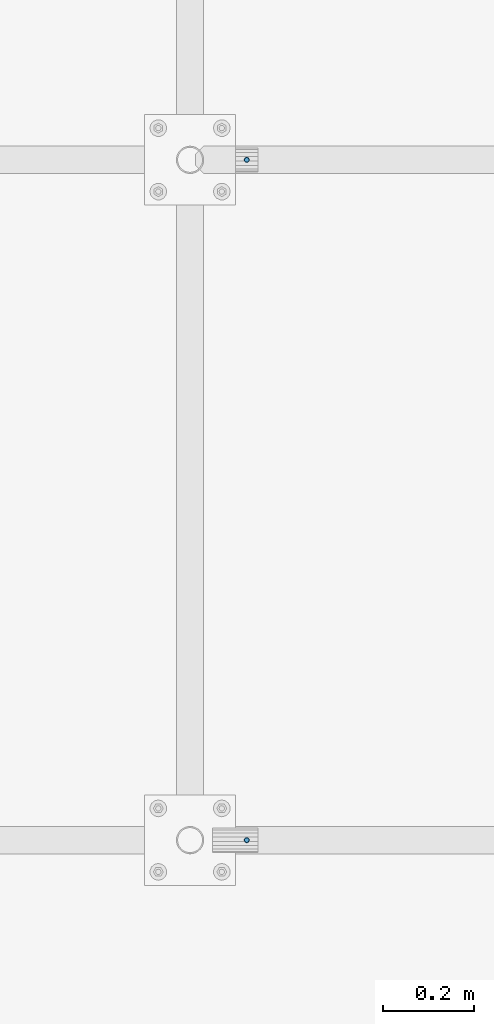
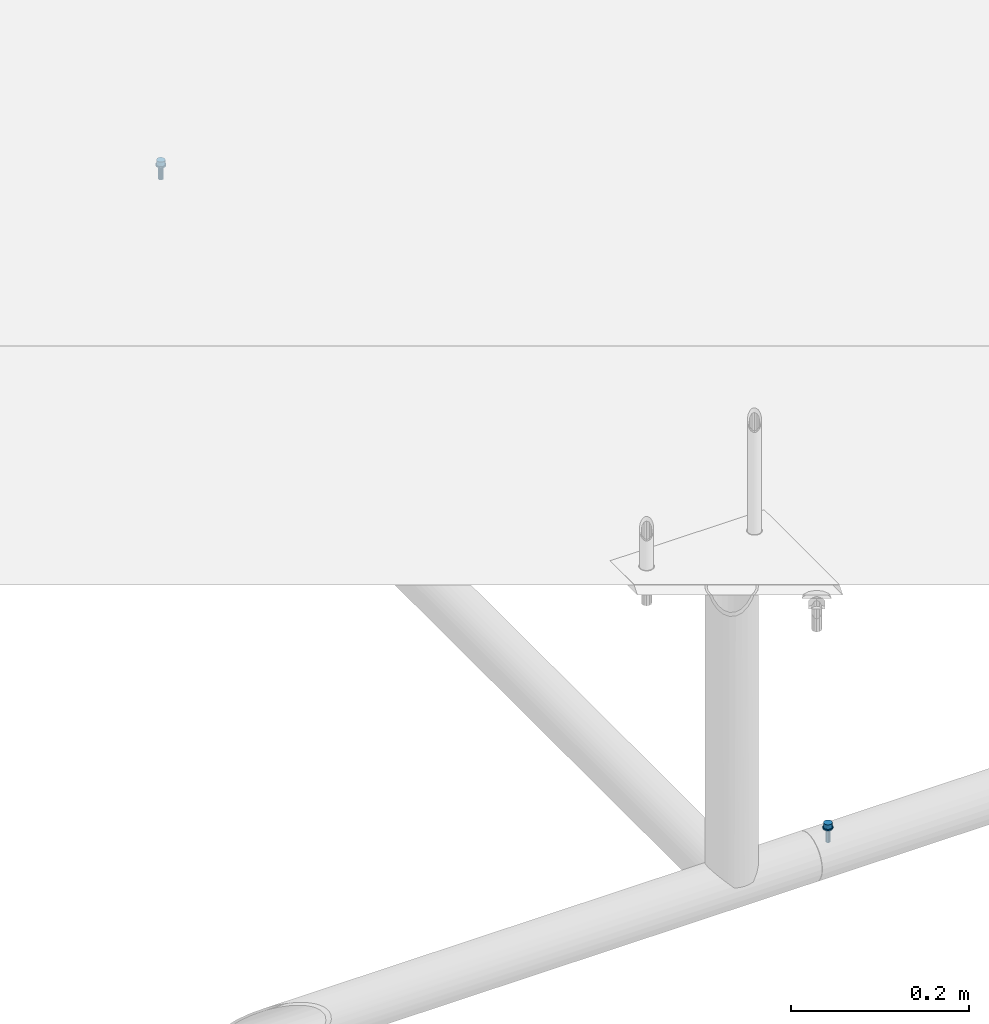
# One storey, part 7 of 30: 2 mechanical fasteners.
"""IFC2X3 building model written with IfcOpenShell, lengths in millimetres."""

from ifc_helpers import new_model, entity, si_unit, converted_unit, origin_with_axes, place, context, project, spatial, faceted_brep, element, save


model = new_model("IFC2X3")

# Units and contexts
model_context = context("Model", 3, precision=1e-09, world=origin_with_axes())
ifc_project = project(units=[si_unit("LENGTHUNIT", "METRE", prefix="MILLI"), si_unit("AREAUNIT", "SQUARE_METRE"), si_unit("VOLUMEUNIT", "CUBIC_METRE"), converted_unit("PLANEANGLEUNIT", "DEGREE", entity("IfcPlaneAngleMeasure", 0.01745329), si_unit("PLANEANGLEUNIT", "RADIAN"), dimensions=[0, 0, 0, 0, 0, 0, 0])], contexts=[model_context])

# Site, building, storey
site_placement = place(None, origin_with_axes())
site = spatial("IfcSite", under=ifc_project, at=site_placement, Name="M?nsinger Stra?e, 81477 M?nchen", CompositionType="ELEMENT")
building_placement = place(site_placement, origin_with_axes())
building = spatial("IfcBuilding", under=site, at=building_placement, Name="Struktur 1", CompositionType="ELEMENT")
storey_placement = place(building_placement, origin_with_axes())
storey = spatial("IfcBuildingStorey", under=building, at=storey_placement, Name="Default Storey", CompositionType="ELEMENT", Elevation=0.0)

# Mechanical fasteners
mechanical_fastener_1_placement = place(None, origin_with_axes())
element("IfcMechanicalFastener", 1, at=mechanical_fastener_1_placement, inside=storey, ObjectType="-", NominalDiameter=6.0, NominalLength=20.0, context=model_context, shape_type="Brep", body=[
    faceted_brep([(3025.315117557, 1491.2632594, 6141.75), (3025.315117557, 1491.2632594, 6140.15), (3025.430405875, 1490.092717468, 6140.15), (3025.430405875, 1490.092717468, 6141.75), (3025.771840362, 1488.967158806, 6140.15), (3025.771840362, 1488.967158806, 6141.75), (3026.326299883, 1487.929838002, 6140.15), (3026.326299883, 1487.929838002, 6141.75), (3027.07247687, 1487.020618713, 6140.15), (3027.07247687, 1487.020618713, 6141.75), (3027.981696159, 1486.274441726, 6140.15), (3027.981696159, 1486.274441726, 6141.75), (3029.019016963, 1485.719982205, 6140.15), (3029.019016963, 1485.719982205, 6141.75), (3030.144575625, 1485.378547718, 6140.15), (3030.144575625, 1485.378547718, 6141.75), (3031.315117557, 1485.2632594, 6140.15), (3031.315117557, 1485.2632594, 6141.75), (3032.485659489, 1485.378547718, 6140.15), (3032.485659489, 1485.378547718, 6141.75), (3033.611218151, 1485.719982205, 6140.15), (3033.611218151, 1485.719982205, 6141.75), (3034.648538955, 1486.274441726, 6140.15), (3034.648538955, 1486.274441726, 6141.75), (3035.557758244, 1487.020618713, 6140.15), (3035.557758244, 1487.020618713, 6141.75), (3036.303935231, 1487.929838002, 6140.15), (3036.303935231, 1487.929838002, 6141.75), (3036.858394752, 1488.967158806, 6140.15), (3036.858394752, 1488.967158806, 6141.75), (3037.199829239, 1490.092717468, 6140.15), (3037.199829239, 1490.092717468, 6141.75), (3037.315117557, 1491.2632594, 6140.15), (3037.315117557, 1491.2632594, 6141.75), (3037.199829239, 1492.433801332, 6140.15), (3037.199829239, 1492.433801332, 6141.75), (3036.858394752, 1493.559359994, 6140.15), (3036.858394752, 1493.559359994, 6141.75), (3036.303935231, 1494.596680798, 6140.15), (3036.303935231, 1494.596680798, 6141.75), (3035.557758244, 1495.505900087, 6140.15), (3035.557758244, 1495.505900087, 6141.75), (3034.648538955, 1496.252077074, 6140.15), (3034.648538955, 1496.252077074, 6141.75), (3033.611218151, 1496.806536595, 6140.15), (3033.611218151, 1496.806536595, 6141.75), (3032.485659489, 1497.147971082, 6140.15), (3032.485659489, 1497.147971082, 6141.75), (3031.315117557, 1497.2632594, 6140.15), (3031.315117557, 1497.2632594, 6141.75), (3030.144575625, 1497.147971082, 6140.15), (3030.144575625, 1497.147971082, 6141.75), (3029.019016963, 1496.806536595, 6140.15), (3029.019016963, 1496.806536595, 6141.75), (3027.981696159, 1496.252077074, 6140.15), (3027.981696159, 1496.252077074, 6141.75), (3027.07247687, 1495.505900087, 6140.15), (3027.07247687, 1495.505900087, 6141.75), (3026.326299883, 1494.596680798, 6140.15), (3026.326299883, 1494.596680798, 6141.75), (3025.771840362, 1493.559359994, 6140.15), (3025.771840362, 1493.559359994, 6141.75), (3025.430405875, 1492.433801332, 6140.15), (3025.430405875, 1492.433801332, 6141.75)], [[[0, 1, 2, 3]], [[3, 2, 4, 5]], [[5, 4, 6, 7]], [[7, 6, 8, 9]], [[9, 8, 10, 11]], [[11, 10, 12, 13]], [[13, 12, 14, 15]], [[15, 14, 16, 17]], [[17, 16, 18, 19]], [[19, 18, 20, 21]], [[21, 20, 22, 23]], [[23, 22, 24, 25]], [[25, 24, 26, 27]], [[27, 26, 28, 29]], [[29, 28, 30, 31]], [[31, 30, 32, 33]], [[33, 32, 34, 35]], [[35, 34, 36, 37]], [[37, 36, 38, 39]], [[39, 38, 40, 41]], [[41, 40, 42, 43]], [[43, 42, 44, 45]], [[45, 44, 46, 47]], [[47, 46, 48, 49]], [[49, 48, 50, 51]], [[51, 50, 52, 53]], [[53, 52, 54, 55]], [[55, 54, 56, 57]], [[57, 56, 58, 59]], [[59, 58, 60, 61]], [[61, 60, 62, 63]], [[63, 62, 1, 0]], [[0, 3, 5, 7, 9, 11, 13, 15, 17, 19, 21, 23, 25, 27, 29, 31, 33, 35, 37, 39, 41, 43, 45, 47, 49, 51, 53, 55, 57, 59, 61, 63]], [[1, 62, 60, 58, 56, 54, 52, 50, 48, 46, 44, 42, 40, 38, 36, 34, 32, 30, 28, 26, 24, 22, 20, 18, 16, 14, 12, 10, 8, 6, 4, 2]]]),
    faceted_brep([(3026.315117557, 1491.2632594, 6147.75), (3026.315117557, 1491.2632594, 6141.75), (3026.411191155, 1490.28780779, 6141.75), (3026.411191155, 1490.28780779, 6147.75), (3026.695719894, 1489.349842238, 6141.75), (3026.695719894, 1489.349842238, 6147.75), (3027.157769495, 1488.485408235, 6141.75), (3027.157769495, 1488.485408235, 6147.75), (3027.779583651, 1487.727725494, 6141.75), (3027.779583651, 1487.727725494, 6147.75), (3028.537266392, 1487.105911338, 6141.75), (3028.537266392, 1487.105911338, 6147.75), (3029.401700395, 1486.643861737, 6141.75), (3029.401700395, 1486.643861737, 6147.75), (3030.339665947, 1486.359332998, 6141.75), (3030.339665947, 1486.359332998, 6147.75), (3031.315117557, 1486.2632594, 6141.75), (3031.315117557, 1486.2632594, 6147.75), (3032.290569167, 1486.359332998, 6141.75), (3032.290569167, 1486.359332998, 6147.75), (3033.228534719, 1486.643861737, 6141.75), (3033.228534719, 1486.643861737, 6147.75), (3034.092968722, 1487.105911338, 6141.75), (3034.092968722, 1487.105911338, 6147.75), (3034.850651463, 1487.727725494, 6141.75), (3034.850651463, 1487.727725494, 6147.75), (3035.472465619, 1488.485408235, 6141.75), (3035.472465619, 1488.485408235, 6147.75), (3035.93451522, 1489.349842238, 6141.75), (3035.93451522, 1489.349842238, 6147.75), (3036.219043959, 1490.28780779, 6141.75), (3036.219043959, 1490.28780779, 6147.75), (3036.315117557, 1491.2632594, 6141.75), (3036.315117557, 1491.2632594, 6147.75), (3036.219043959, 1492.23871101, 6141.75), (3036.219043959, 1492.23871101, 6147.75), (3035.93451522, 1493.176676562, 6141.75), (3035.93451522, 1493.176676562, 6147.75), (3035.472465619, 1494.041110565, 6141.75), (3035.472465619, 1494.041110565, 6147.75), (3034.850651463, 1494.798793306, 6141.75), (3034.850651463, 1494.798793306, 6147.75), (3034.092968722, 1495.420607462, 6141.75), (3034.092968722, 1495.420607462, 6147.75), (3033.228534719, 1495.882657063, 6141.75), (3033.228534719, 1495.882657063, 6147.75), (3032.290569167, 1496.167185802, 6141.75), (3032.290569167, 1496.167185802, 6147.75), (3031.315117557, 1496.2632594, 6141.75), (3031.315117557, 1496.2632594, 6147.75), (3030.339665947, 1496.167185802, 6141.75), (3030.339665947, 1496.167185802, 6147.75), (3029.401700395, 1495.882657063, 6141.75), (3029.401700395, 1495.882657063, 6147.75), (3028.537266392, 1495.420607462, 6141.75), (3028.537266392, 1495.420607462, 6147.75), (3027.779583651, 1494.798793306, 6141.75), (3027.779583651, 1494.798793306, 6147.75), (3027.157769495, 1494.041110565, 6141.75), (3027.157769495, 1494.041110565, 6147.75), (3026.695719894, 1493.176676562, 6141.75), (3026.695719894, 1493.176676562, 6147.75), (3026.411191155, 1492.23871101, 6141.75), (3026.411191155, 1492.23871101, 6147.75)], [[[0, 1, 2, 3]], [[3, 2, 4, 5]], [[5, 4, 6, 7]], [[7, 6, 8, 9]], [[9, 8, 10, 11]], [[11, 10, 12, 13]], [[13, 12, 14, 15]], [[15, 14, 16, 17]], [[17, 16, 18, 19]], [[19, 18, 20, 21]], [[21, 20, 22, 23]], [[23, 22, 24, 25]], [[25, 24, 26, 27]], [[27, 26, 28, 29]], [[29, 28, 30, 31]], [[31, 30, 32, 33]], [[33, 32, 34, 35]], [[35, 34, 36, 37]], [[37, 36, 38, 39]], [[39, 38, 40, 41]], [[41, 40, 42, 43]], [[43, 42, 44, 45]], [[45, 44, 46, 47]], [[47, 46, 48, 49]], [[49, 48, 50, 51]], [[51, 50, 52, 53]], [[53, 52, 54, 55]], [[55, 54, 56, 57]], [[57, 56, 58, 59]], [[59, 58, 60, 61]], [[61, 60, 62, 63]], [[63, 62, 1, 0]], [[0, 3, 5, 7, 9, 11, 13, 15, 17, 19, 21, 23, 25, 27, 29, 31, 33, 35, 37, 39, 41, 43, 45, 47, 49, 51, 53, 55, 57, 59, 61, 63]], [[1, 62, 60, 58, 56, 54, 52, 50, 48, 46, 44, 42, 40, 38, 36, 34, 32, 30, 28, 26, 24, 22, 20, 18, 16, 14, 12, 10, 8, 6, 4, 2]]]),
    faceted_brep([(3028.315117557, 1491.2632594, 6140.15), (3028.315117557, 1491.2632594, 6130.585197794), (3028.543478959, 1490.115209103, 6130.585197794), (3028.543478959, 1490.115209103, 6140.15), (3029.193797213, 1489.141939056, 6130.585197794), (3029.193797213, 1489.141939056, 6140.15), (3030.16706726, 1488.491620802, 6130.585197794), (3030.16706726, 1488.491620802, 6140.15), (3031.315117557, 1488.2632594, 6130.585197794), (3031.315117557, 1488.2632594, 6140.15), (3032.463167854, 1488.491620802, 6130.585197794), (3032.463167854, 1488.491620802, 6140.15), (3033.436437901, 1489.141939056, 6130.585197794), (3033.436437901, 1489.141939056, 6140.15), (3034.086756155, 1490.115209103, 6130.585197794), (3034.086756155, 1490.115209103, 6140.15), (3034.315117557, 1491.2632594, 6130.585197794), (3034.315117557, 1491.2632594, 6140.15), (3034.086756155, 1492.411309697, 6130.585197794), (3034.086756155, 1492.411309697, 6140.15), (3033.436437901, 1493.384579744, 6130.585197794), (3033.436437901, 1493.384579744, 6140.15), (3032.463167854, 1494.034897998, 6130.585197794), (3032.463167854, 1494.034897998, 6140.15), (3031.315117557, 1494.2632594, 6130.585197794), (3031.315117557, 1494.2632594, 6140.15), (3030.16706726, 1494.034897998, 6130.585197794), (3030.16706726, 1494.034897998, 6140.15), (3029.193797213, 1493.384579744, 6130.585197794), (3029.193797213, 1493.384579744, 6140.15), (3028.543478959, 1492.411309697, 6130.585197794), (3028.543478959, 1492.411309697, 6140.15)], [[[0, 1, 2, 3]], [[3, 2, 4, 5]], [[5, 4, 6, 7]], [[7, 6, 8, 9]], [[9, 8, 10, 11]], [[11, 10, 12, 13]], [[13, 12, 14, 15]], [[15, 14, 16, 17]], [[17, 16, 18, 19]], [[19, 18, 20, 21]], [[21, 20, 22, 23]], [[23, 22, 24, 25]], [[25, 24, 26, 27]], [[27, 26, 28, 29]], [[29, 28, 30, 31]], [[31, 30, 1, 0]], [[0, 3, 5, 7, 9, 11, 13, 15, 17, 19, 21, 23, 25, 27, 29, 31]], [[1, 30, 28, 26, 24, 22, 20, 18, 16, 14, 12, 10, 8, 6, 4, 2]]]),
    faceted_brep([(3028.315117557, 1491.2632594, 6130.585197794), (3028.315117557, 1491.2632594, 6121.75), (3028.543478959, 1490.115209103, 6121.75), (3028.543478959, 1490.115209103, 6130.585197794), (3029.193797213, 1489.141939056, 6121.75), (3029.193797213, 1489.141939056, 6130.585197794), (3030.16706726, 1488.491620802, 6121.75), (3030.16706726, 1488.491620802, 6130.585197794), (3031.315117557, 1488.2632594, 6121.75), (3031.315117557, 1488.2632594, 6130.585197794), (3032.463167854, 1488.491620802, 6121.75), (3032.463167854, 1488.491620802, 6130.585197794), (3033.436437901, 1489.141939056, 6121.75), (3033.436437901, 1489.141939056, 6130.585197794), (3034.086756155, 1490.115209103, 6121.75), (3034.086756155, 1490.115209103, 6130.585197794), (3034.315117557, 1491.2632594, 6121.75), (3034.315117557, 1491.2632594, 6130.585197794), (3034.086756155, 1492.411309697, 6121.75), (3034.086756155, 1492.411309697, 6130.585197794), (3033.436437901, 1493.384579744, 6121.75), (3033.436437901, 1493.384579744, 6130.585197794), (3032.463167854, 1494.034897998, 6121.75), (3032.463167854, 1494.034897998, 6130.585197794), (3031.315117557, 1494.2632594, 6121.75), (3031.315117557, 1494.2632594, 6130.585197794), (3030.16706726, 1494.034897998, 6121.75), (3030.16706726, 1494.034897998, 6130.585197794), (3029.193797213, 1493.384579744, 6121.75), (3029.193797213, 1493.384579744, 6130.585197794), (3028.543478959, 1492.411309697, 6121.75), (3028.543478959, 1492.411309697, 6130.585197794)], [[[0, 1, 2, 3]], [[3, 2, 4, 5]], [[5, 4, 6, 7]], [[7, 6, 8, 9]], [[9, 8, 10, 11]], [[11, 10, 12, 13]], [[13, 12, 14, 15]], [[15, 14, 16, 17]], [[17, 16, 18, 19]], [[19, 18, 20, 21]], [[21, 20, 22, 23]], [[23, 22, 24, 25]], [[25, 24, 26, 27]], [[27, 26, 28, 29]], [[29, 28, 30, 31]], [[31, 30, 1, 0]], [[0, 3, 5, 7, 9, 11, 13, 15, 17, 19, 21, 23, 25, 27, 29, 31]], [[1, 30, 28, 26, 24, 22, 20, 18, 16, 14, 12, 10, 8, 6, 4, 2]]]),
])
mechanical_fastener_2_placement = place(None, origin_with_axes())
element("IfcMechanicalFastener", 2, at=mechanical_fastener_2_placement, inside=storey, ObjectType="-", NominalDiameter=6.0, NominalLength=20.0, context=model_context, shape_type="Brep", body=[
    faceted_brep([(3025.315117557, 2991.2632594, 6141.75), (3025.315117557, 2991.2632594, 6140.15), (3025.430405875, 2990.092717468, 6140.15), (3025.430405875, 2990.092717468, 6141.75), (3025.771840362, 2988.967158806, 6140.15), (3025.771840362, 2988.967158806, 6141.75), (3026.326299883, 2987.929838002, 6140.15), (3026.326299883, 2987.929838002, 6141.75), (3027.07247687, 2987.020618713, 6140.15), (3027.07247687, 2987.020618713, 6141.75), (3027.981696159, 2986.274441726, 6140.15), (3027.981696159, 2986.274441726, 6141.75), (3029.019016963, 2985.719982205, 6140.15), (3029.019016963, 2985.719982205, 6141.75), (3030.144575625, 2985.378547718, 6140.15), (3030.144575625, 2985.378547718, 6141.75), (3031.315117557, 2985.2632594, 6140.15), (3031.315117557, 2985.2632594, 6141.75), (3032.485659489, 2985.378547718, 6140.15), (3032.485659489, 2985.378547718, 6141.75), (3033.611218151, 2985.719982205, 6140.15), (3033.611218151, 2985.719982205, 6141.75), (3034.648538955, 2986.274441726, 6140.15), (3034.648538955, 2986.274441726, 6141.75), (3035.557758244, 2987.020618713, 6140.15), (3035.557758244, 2987.020618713, 6141.75), (3036.303935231, 2987.929838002, 6140.15), (3036.303935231, 2987.929838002, 6141.75), (3036.858394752, 2988.967158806, 6140.15), (3036.858394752, 2988.967158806, 6141.75), (3037.199829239, 2990.092717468, 6140.15), (3037.199829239, 2990.092717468, 6141.75), (3037.315117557, 2991.2632594, 6140.15), (3037.315117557, 2991.2632594, 6141.75), (3037.199829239, 2992.433801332, 6140.15), (3037.199829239, 2992.433801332, 6141.75), (3036.858394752, 2993.559359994, 6140.15), (3036.858394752, 2993.559359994, 6141.75), (3036.303935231, 2994.596680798, 6140.15), (3036.303935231, 2994.596680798, 6141.75), (3035.557758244, 2995.505900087, 6140.15), (3035.557758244, 2995.505900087, 6141.75), (3034.648538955, 2996.252077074, 6140.15), (3034.648538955, 2996.252077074, 6141.75), (3033.611218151, 2996.806536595, 6140.15), (3033.611218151, 2996.806536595, 6141.75), (3032.485659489, 2997.147971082, 6140.15), (3032.485659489, 2997.147971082, 6141.75), (3031.315117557, 2997.2632594, 6140.15), (3031.315117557, 2997.2632594, 6141.75), (3030.144575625, 2997.147971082, 6140.15), (3030.144575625, 2997.147971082, 6141.75), (3029.019016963, 2996.806536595, 6140.15), (3029.019016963, 2996.806536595, 6141.75), (3027.981696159, 2996.252077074, 6140.15), (3027.981696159, 2996.252077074, 6141.75), (3027.07247687, 2995.505900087, 6140.15), (3027.07247687, 2995.505900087, 6141.75), (3026.326299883, 2994.596680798, 6140.15), (3026.326299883, 2994.596680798, 6141.75), (3025.771840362, 2993.559359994, 6140.15), (3025.771840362, 2993.559359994, 6141.75), (3025.430405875, 2992.433801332, 6140.15), (3025.430405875, 2992.433801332, 6141.75)], [[[0, 1, 2, 3]], [[3, 2, 4, 5]], [[5, 4, 6, 7]], [[7, 6, 8, 9]], [[9, 8, 10, 11]], [[11, 10, 12, 13]], [[13, 12, 14, 15]], [[15, 14, 16, 17]], [[17, 16, 18, 19]], [[19, 18, 20, 21]], [[21, 20, 22, 23]], [[23, 22, 24, 25]], [[25, 24, 26, 27]], [[27, 26, 28, 29]], [[29, 28, 30, 31]], [[31, 30, 32, 33]], [[33, 32, 34, 35]], [[35, 34, 36, 37]], [[37, 36, 38, 39]], [[39, 38, 40, 41]], [[41, 40, 42, 43]], [[43, 42, 44, 45]], [[45, 44, 46, 47]], [[47, 46, 48, 49]], [[49, 48, 50, 51]], [[51, 50, 52, 53]], [[53, 52, 54, 55]], [[55, 54, 56, 57]], [[57, 56, 58, 59]], [[59, 58, 60, 61]], [[61, 60, 62, 63]], [[63, 62, 1, 0]], [[0, 3, 5, 7, 9, 11, 13, 15, 17, 19, 21, 23, 25, 27, 29, 31, 33, 35, 37, 39, 41, 43, 45, 47, 49, 51, 53, 55, 57, 59, 61, 63]], [[1, 62, 60, 58, 56, 54, 52, 50, 48, 46, 44, 42, 40, 38, 36, 34, 32, 30, 28, 26, 24, 22, 20, 18, 16, 14, 12, 10, 8, 6, 4, 2]]]),
    faceted_brep([(3026.315117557, 2991.2632594, 6147.75), (3026.315117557, 2991.2632594, 6141.75), (3026.411191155, 2990.28780779, 6141.75), (3026.411191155, 2990.28780779, 6147.75), (3026.695719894, 2989.349842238, 6141.75), (3026.695719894, 2989.349842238, 6147.75), (3027.157769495, 2988.485408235, 6141.75), (3027.157769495, 2988.485408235, 6147.75), (3027.779583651, 2987.727725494, 6141.75), (3027.779583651, 2987.727725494, 6147.75), (3028.537266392, 2987.105911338, 6141.75), (3028.537266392, 2987.105911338, 6147.75), (3029.401700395, 2986.643861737, 6141.75), (3029.401700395, 2986.643861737, 6147.75), (3030.339665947, 2986.359332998, 6141.75), (3030.339665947, 2986.359332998, 6147.75), (3031.315117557, 2986.2632594, 6141.75), (3031.315117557, 2986.2632594, 6147.75), (3032.290569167, 2986.359332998, 6141.75), (3032.290569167, 2986.359332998, 6147.75), (3033.228534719, 2986.643861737, 6141.75), (3033.228534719, 2986.643861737, 6147.75), (3034.092968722, 2987.105911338, 6141.75), (3034.092968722, 2987.105911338, 6147.75), (3034.850651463, 2987.727725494, 6141.75), (3034.850651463, 2987.727725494, 6147.75), (3035.472465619, 2988.485408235, 6141.75), (3035.472465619, 2988.485408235, 6147.75), (3035.93451522, 2989.349842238, 6141.75), (3035.93451522, 2989.349842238, 6147.75), (3036.219043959, 2990.28780779, 6141.75), (3036.219043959, 2990.28780779, 6147.75), (3036.315117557, 2991.2632594, 6141.75), (3036.315117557, 2991.2632594, 6147.75), (3036.219043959, 2992.23871101, 6141.75), (3036.219043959, 2992.23871101, 6147.75), (3035.93451522, 2993.176676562, 6141.75), (3035.93451522, 2993.176676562, 6147.75), (3035.472465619, 2994.041110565, 6141.75), (3035.472465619, 2994.041110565, 6147.75), (3034.850651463, 2994.798793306, 6141.75), (3034.850651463, 2994.798793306, 6147.75), (3034.092968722, 2995.420607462, 6141.75), (3034.092968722, 2995.420607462, 6147.75), (3033.228534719, 2995.882657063, 6141.75), (3033.228534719, 2995.882657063, 6147.75), (3032.290569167, 2996.167185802, 6141.75), (3032.290569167, 2996.167185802, 6147.75), (3031.315117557, 2996.2632594, 6141.75), (3031.315117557, 2996.2632594, 6147.75), (3030.339665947, 2996.167185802, 6141.75), (3030.339665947, 2996.167185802, 6147.75), (3029.401700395, 2995.882657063, 6141.75), (3029.401700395, 2995.882657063, 6147.75), (3028.537266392, 2995.420607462, 6141.75), (3028.537266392, 2995.420607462, 6147.75), (3027.779583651, 2994.798793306, 6141.75), (3027.779583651, 2994.798793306, 6147.75), (3027.157769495, 2994.041110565, 6141.75), (3027.157769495, 2994.041110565, 6147.75), (3026.695719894, 2993.176676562, 6141.75), (3026.695719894, 2993.176676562, 6147.75), (3026.411191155, 2992.23871101, 6141.75), (3026.411191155, 2992.23871101, 6147.75)], [[[0, 1, 2, 3]], [[3, 2, 4, 5]], [[5, 4, 6, 7]], [[7, 6, 8, 9]], [[9, 8, 10, 11]], [[11, 10, 12, 13]], [[13, 12, 14, 15]], [[15, 14, 16, 17]], [[17, 16, 18, 19]], [[19, 18, 20, 21]], [[21, 20, 22, 23]], [[23, 22, 24, 25]], [[25, 24, 26, 27]], [[27, 26, 28, 29]], [[29, 28, 30, 31]], [[31, 30, 32, 33]], [[33, 32, 34, 35]], [[35, 34, 36, 37]], [[37, 36, 38, 39]], [[39, 38, 40, 41]], [[41, 40, 42, 43]], [[43, 42, 44, 45]], [[45, 44, 46, 47]], [[47, 46, 48, 49]], [[49, 48, 50, 51]], [[51, 50, 52, 53]], [[53, 52, 54, 55]], [[55, 54, 56, 57]], [[57, 56, 58, 59]], [[59, 58, 60, 61]], [[61, 60, 62, 63]], [[63, 62, 1, 0]], [[0, 3, 5, 7, 9, 11, 13, 15, 17, 19, 21, 23, 25, 27, 29, 31, 33, 35, 37, 39, 41, 43, 45, 47, 49, 51, 53, 55, 57, 59, 61, 63]], [[1, 62, 60, 58, 56, 54, 52, 50, 48, 46, 44, 42, 40, 38, 36, 34, 32, 30, 28, 26, 24, 22, 20, 18, 16, 14, 12, 10, 8, 6, 4, 2]]]),
    faceted_brep([(3028.315117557, 2991.2632594, 6140.15), (3028.315117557, 2991.2632594, 6130.585197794), (3028.543478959, 2990.115209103, 6130.585197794), (3028.543478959, 2990.115209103, 6140.15), (3029.193797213, 2989.141939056, 6130.585197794), (3029.193797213, 2989.141939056, 6140.15), (3030.16706726, 2988.491620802, 6130.585197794), (3030.16706726, 2988.491620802, 6140.15), (3031.315117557, 2988.2632594, 6130.585197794), (3031.315117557, 2988.2632594, 6140.15), (3032.463167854, 2988.491620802, 6130.585197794), (3032.463167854, 2988.491620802, 6140.15), (3033.436437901, 2989.141939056, 6130.585197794), (3033.436437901, 2989.141939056, 6140.15), (3034.086756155, 2990.115209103, 6130.585197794), (3034.086756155, 2990.115209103, 6140.15), (3034.315117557, 2991.2632594, 6130.585197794), (3034.315117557, 2991.2632594, 6140.15), (3034.086756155, 2992.411309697, 6130.585197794), (3034.086756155, 2992.411309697, 6140.15), (3033.436437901, 2993.384579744, 6130.585197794), (3033.436437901, 2993.384579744, 6140.15), (3032.463167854, 2994.034897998, 6130.585197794), (3032.463167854, 2994.034897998, 6140.15), (3031.315117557, 2994.2632594, 6130.585197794), (3031.315117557, 2994.2632594, 6140.15), (3030.16706726, 2994.034897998, 6130.585197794), (3030.16706726, 2994.034897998, 6140.15), (3029.193797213, 2993.384579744, 6130.585197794), (3029.193797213, 2993.384579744, 6140.15), (3028.543478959, 2992.411309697, 6130.585197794), (3028.543478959, 2992.411309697, 6140.15)], [[[0, 1, 2, 3]], [[3, 2, 4, 5]], [[5, 4, 6, 7]], [[7, 6, 8, 9]], [[9, 8, 10, 11]], [[11, 10, 12, 13]], [[13, 12, 14, 15]], [[15, 14, 16, 17]], [[17, 16, 18, 19]], [[19, 18, 20, 21]], [[21, 20, 22, 23]], [[23, 22, 24, 25]], [[25, 24, 26, 27]], [[27, 26, 28, 29]], [[29, 28, 30, 31]], [[31, 30, 1, 0]], [[0, 3, 5, 7, 9, 11, 13, 15, 17, 19, 21, 23, 25, 27, 29, 31]], [[1, 30, 28, 26, 24, 22, 20, 18, 16, 14, 12, 10, 8, 6, 4, 2]]]),
    faceted_brep([(3028.315117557, 2991.2632594, 6130.585197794), (3028.315117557, 2991.2632594, 6121.75), (3028.543478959, 2990.115209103, 6121.75), (3028.543478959, 2990.115209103, 6130.585197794), (3029.193797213, 2989.141939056, 6121.75), (3029.193797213, 2989.141939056, 6130.585197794), (3030.16706726, 2988.491620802, 6121.75), (3030.16706726, 2988.491620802, 6130.585197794), (3031.315117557, 2988.2632594, 6121.75), (3031.315117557, 2988.2632594, 6130.585197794), (3032.463167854, 2988.491620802, 6121.75), (3032.463167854, 2988.491620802, 6130.585197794), (3033.436437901, 2989.141939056, 6121.75), (3033.436437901, 2989.141939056, 6130.585197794), (3034.086756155, 2990.115209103, 6121.75), (3034.086756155, 2990.115209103, 6130.585197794), (3034.315117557, 2991.2632594, 6121.75), (3034.315117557, 2991.2632594, 6130.585197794), (3034.086756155, 2992.411309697, 6121.75), (3034.086756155, 2992.411309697, 6130.585197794), (3033.436437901, 2993.384579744, 6121.75), (3033.436437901, 2993.384579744, 6130.585197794), (3032.463167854, 2994.034897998, 6121.75), (3032.463167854, 2994.034897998, 6130.585197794), (3031.315117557, 2994.2632594, 6121.75), (3031.315117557, 2994.2632594, 6130.585197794), (3030.16706726, 2994.034897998, 6121.75), (3030.16706726, 2994.034897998, 6130.585197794), (3029.193797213, 2993.384579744, 6121.75), (3029.193797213, 2993.384579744, 6130.585197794), (3028.543478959, 2992.411309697, 6121.75), (3028.543478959, 2992.411309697, 6130.585197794)], [[[0, 1, 2, 3]], [[3, 2, 4, 5]], [[5, 4, 6, 7]], [[7, 6, 8, 9]], [[9, 8, 10, 11]], [[11, 10, 12, 13]], [[13, 12, 14, 15]], [[15, 14, 16, 17]], [[17, 16, 18, 19]], [[19, 18, 20, 21]], [[21, 20, 22, 23]], [[23, 22, 24, 25]], [[25, 24, 26, 27]], [[27, 26, 28, 29]], [[29, 28, 30, 31]], [[31, 30, 1, 0]], [[0, 3, 5, 7, 9, 11, 13, 15, 17, 19, 21, 23, 25, 27, 29, 31]], [[1, 30, 28, 26, 24, 22, 20, 18, 16, 14, 12, 10, 8, 6, 4, 2]]]),
])

save(model, "model.ifc")
